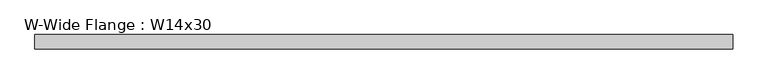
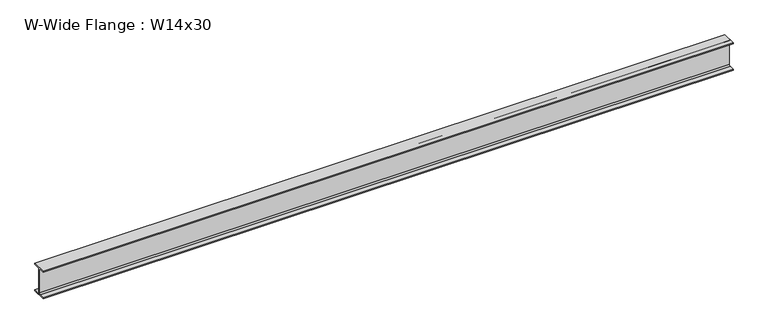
"""IFC4 building model written with IfcOpenShell, lengths in millimetres: beam geometry, W-Wide Flange : W14x30."""

from ifc_helpers import new_model, si_unit, point, frame, frame_2d, origin, place, context, project, spatial, polyline, circle_curve, trimmed, segment, composite_curve, outline, extrude, source, transform, mapped, element, save


def w_wide_flange_w14x30_bc8e7e4e(model_context):
    return source(origin(), model_context, "Body", "SweptSolid", [
        extrude(outline(composite_curve([segment(polyline([(85.471, -165.481), (85.471, -175.26), (-85.471, -175.26), (-85.471, -165.481), (-22.225, -165.481)]), True, "CONTINUOUS"), segment(trimmed(circle_curve(frame_2d((-22.225, -146.685)), 18.796), [point((-22.225, -165.481))], [point((-3.429, -146.685))], True, "CARTESIAN"), True, "CONTINUOUS"), segment(polyline([(-3.429, -146.685), (-3.429, 146.685)]), True, "CONTINUOUS"), segment(trimmed(circle_curve(frame_2d((-22.225, 146.685)), 18.796), [point((-3.429, 146.685))], [point((-22.225, 165.481))], True, "CARTESIAN"), True, "CONTINUOUS"), segment(polyline([(-22.225, 165.481), (-85.471, 165.481), (-85.471, 175.26), (85.471, 175.26), (85.471, 165.481), (22.225, 165.481)]), True, "CONTINUOUS"), segment(trimmed(circle_curve(frame_2d((22.225, 146.685)), 18.796), [point((22.225, 165.481))], [point((3.429, 146.685))], True, "CARTESIAN"), True, "CONTINUOUS"), segment(polyline([(3.429, 146.685), (3.429, -146.685)]), True, "CONTINUOUS"), segment(trimmed(circle_curve(frame_2d((22.225, -146.685)), 18.796), [point((3.429, -146.685))], [point((22.225, -165.481))], True, "CARTESIAN"), True, "CONTINUOUS"), segment(polyline([(22.225, -165.481), (85.471, -165.481)]), True, "CONTINUOUS")], self_intersect=False)), frame((-4231.513, 0.0, 0.0), z_axis=(1.0, 0.0, 0.0), x_axis=(0.0, 1.0, 0.0)), (0.0, 0.0, 1.0), 8403.463),
    ])


if __name__ == "__main__":
    model = new_model("IFC4")
    model_context = context("Model", 3, world=origin())
    ifc_project = project(units=[si_unit("LENGTHUNIT", "METRE", prefix="MILLI")], contexts=[model_context])
    site = spatial("IfcSite", under=ifc_project)
    building = spatial("IfcBuilding", under=site)
    placement = place(None, origin())
    w_wide_flange_w14x30_shape = w_wide_flange_w14x30_bc8e7e4e(model_context)
    element("IfcBeam", 1, ObjectType="W-Wide Flange : W14x30", at=placement, inside=building, context=model_context, shape_type="MappedRepresentation", body=[
        mapped(w_wide_flange_w14x30_shape, transform((0.0, 0.0, 0.0), x_axis=(1.0, 0.0, 0.0), y_axis=(0.0, 1.0, 0.0), z_axis=(0.0, 0.0, 1.0))),
    ])
    save(model, "model.ifc")
